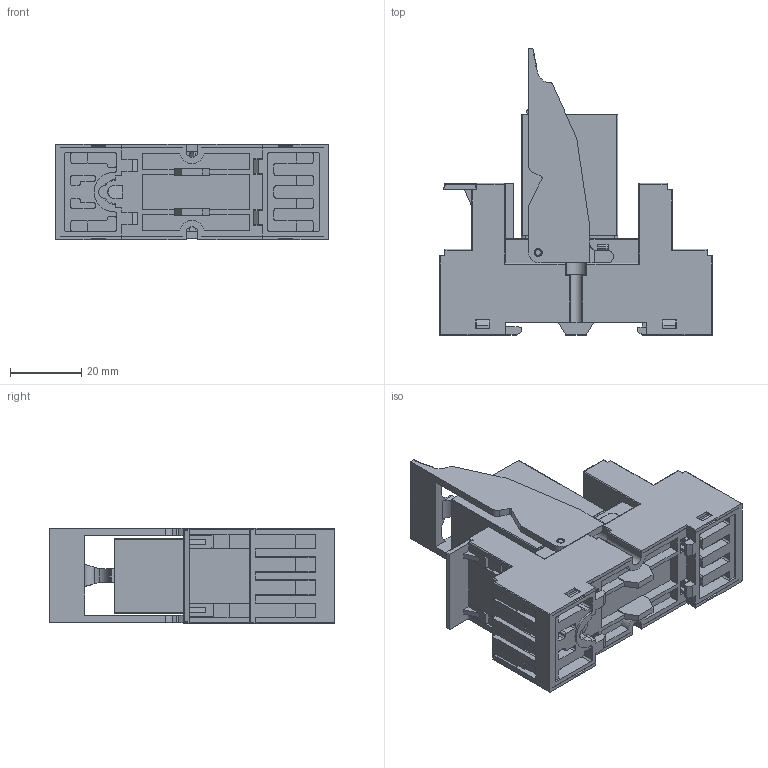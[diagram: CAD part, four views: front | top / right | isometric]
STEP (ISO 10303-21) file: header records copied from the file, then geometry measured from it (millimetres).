
FILE_DESCRIPTION (( 'STEP AP214' ), '1' );
FILE_NAME ('4. IR-4CO_IR-B4-SC-1_IR-RB-2_IR-MP-2.STEP', '2023-06-08T06:07:24', ( '' ), ( '' ), 'SwSTEP 2.0', 'SolidWorks 2022', '' );
FILE_SCHEMA (( 'AUTOMOTIVE_DESIGN' ));
Length unit declared in the file: millimetre
Products named in the file (5): 4. IR-4CO_IR-B4-SC-1_IR-RB-2_IR-MP-2; IR-RB-2 (DKC); IR-MP-2 (DKC); IR-4CO; IR-B4-SC-1
Assembly tree (4 placements, depth 2):
  4. IR-4CO_IR-B4-SC-1_IR-RB-2_IR-MP-2
    IR-B4-SC-1
    IR-4CO
    IR-RB-2 (DKC)
    IR-MP-2 (DKC)
Bounding box: 76.4 x 80.2 x 26.8 mm (x, y, z)
Volume: 72140.4 mm3; surface area: 29834.7 mm2
Topology: 4 solids, 4 shells, 2320 faces, 6433 edges, 4174 vertices
Faces by surface type: plane 1513, cylinder 429, bspline 313, cone 65
Entity records: 85359 total; most frequent: CARTESIAN_POINT 28272, ORIENTED_EDGE 12750, DIRECTION 10511, EDGE_CURVE 6375, LINE 4429, VECTOR 4429, VERTEX_POINT 4174, AXIS2_PLACEMENT_3D 3041
